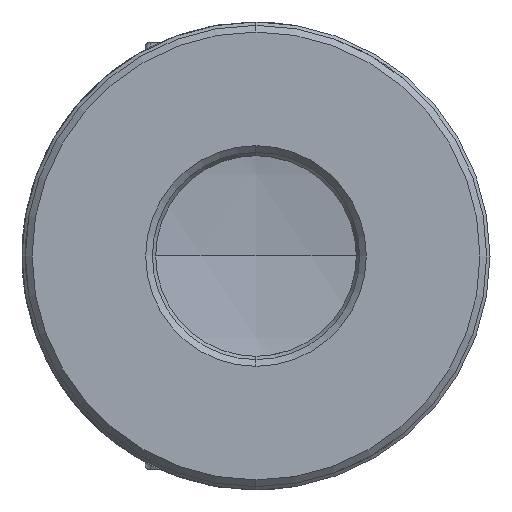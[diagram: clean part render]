
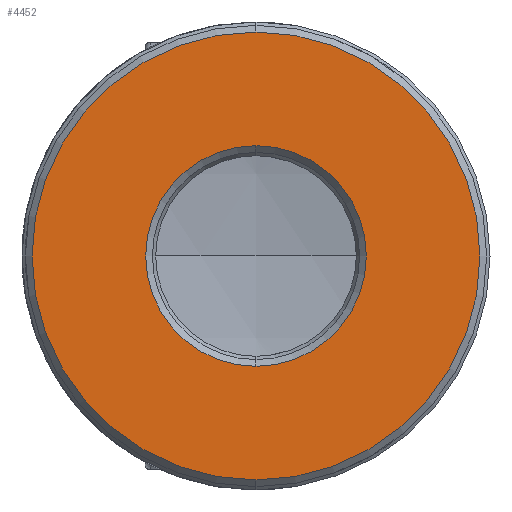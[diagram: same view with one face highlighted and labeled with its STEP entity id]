
A CAD part, left-side view. The second image highlights one B-rep face of the part: STEP entity #4452.
In plain terms, the highlighted planar face has unit normal (-1, 0, 0).
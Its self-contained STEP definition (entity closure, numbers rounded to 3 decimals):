
#193 = EDGE_LOOP ( 'NONE', ( #8229, #3587 ) ) ;
#259 = DIRECTION ( 'NONE',  ( 0., 0., -1. ) ) ;
#490 = DIRECTION ( 'NONE',  ( 1., 0., 0. ) ) ;
#499 = DIRECTION ( 'NONE',  ( 0., 0., -1. ) ) ;
#1810 = CARTESIAN_POINT ( 'NONE',  ( 0., 0., 0. ) ) ;
#1836 = DIRECTION ( 'NONE',  ( -1., 0., 0. ) ) ;
#2028 = EDGE_CURVE ( 'NONE', #3424, #3724, #4951, .T. ) ;
#2562 = DIRECTION ( 'NONE',  ( 0., 0., -1. ) ) ;
#2809 = CARTESIAN_POINT ( 'NONE',  ( 0., 0., -8.25 ) ) ;
#2984 = AXIS2_PLACEMENT_3D ( 'NONE', #1810, #6976, #2562 ) ;
#3424 = VERTEX_POINT ( 'NONE', #9065 ) ;
#3587 = ORIENTED_EDGE ( 'NONE', *, *, #8973, .T. ) ;
#3724 = VERTEX_POINT ( 'NONE', #2809 ) ;
#4391 = VERTEX_POINT ( 'NONE', #4796 ) ;
#4415 = AXIS2_PLACEMENT_3D ( 'NONE', #6248, #1836, #7002 ) ;
#4452 = ADVANCED_FACE ( 'NONE', ( #4734, #8887 ), #4870, .F. ) ;
#4505 = CIRCLE ( 'NONE', #5170, 8.25 ) ;
#4653 = DIRECTION ( 'NONE',  ( -1., 0., 0. ) ) ;
#4734 = FACE_BOUND ( 'NONE', #5332, .T. ) ;
#4796 = CARTESIAN_POINT ( 'NONE',  ( 0., 0., -16.75 ) ) ;
#4870 = PLANE ( 'NONE',  #5258 ) ;
#4901 = CARTESIAN_POINT ( 'NONE',  ( 0., 0., 0. ) ) ;
#4907 = DIRECTION ( 'NONE',  ( 1., 0., 0. ) ) ;
#4951 = CIRCLE ( 'NONE', #2984, 8.25 ) ;
#4978 = VERTEX_POINT ( 'NONE', #6030 ) ;
#5170 = AXIS2_PLACEMENT_3D ( 'NONE', #4901, #490, #5610 ) ;
#5258 = AXIS2_PLACEMENT_3D ( 'NONE', #9285, #4907, #499 ) ;
#5332 = EDGE_LOOP ( 'NONE', ( #5533, #6041 ) ) ;
#5533 = ORIENTED_EDGE ( 'NONE', *, *, #2028, .T. ) ;
#5610 = DIRECTION ( 'NONE',  ( 0., 0., -1. ) ) ;
#5706 = CIRCLE ( 'NONE', #4415, 16.75 ) ;
#6030 = CARTESIAN_POINT ( 'NONE',  ( 0., 0., 16.75 ) ) ;
#6041 = ORIENTED_EDGE ( 'NONE', *, *, #7793, .T. ) ;
#6248 = CARTESIAN_POINT ( 'NONE',  ( 0., 0., 0. ) ) ;
#6300 = CIRCLE ( 'NONE', #8907, 16.75 ) ;
#6976 = DIRECTION ( 'NONE',  ( 1., 0., 0. ) ) ;
#7002 = DIRECTION ( 'NONE',  ( 0., 0., -1. ) ) ;
#7159 = EDGE_CURVE ( 'NONE', #4391, #4978, #5706, .T. ) ;
#7793 = EDGE_CURVE ( 'NONE', #3724, #3424, #4505, .T. ) ;
#8229 = ORIENTED_EDGE ( 'NONE', *, *, #7159, .T. ) ;
#8887 = FACE_OUTER_BOUND ( 'NONE', #193, .T. ) ;
#8907 = AXIS2_PLACEMENT_3D ( 'NONE', #9048, #4653, #259 ) ;
#8973 = EDGE_CURVE ( 'NONE', #4978, #4391, #6300, .T. ) ;
#9048 = CARTESIAN_POINT ( 'NONE',  ( 0., 0., 0. ) ) ;
#9065 = CARTESIAN_POINT ( 'NONE',  ( 0., 0., 8.25 ) ) ;
#9285 = CARTESIAN_POINT ( 'NONE',  ( 0., 7.75, 0. ) ) ;
